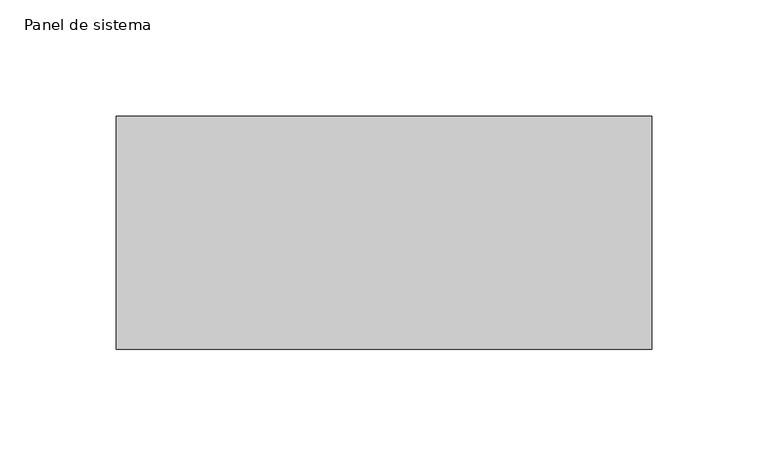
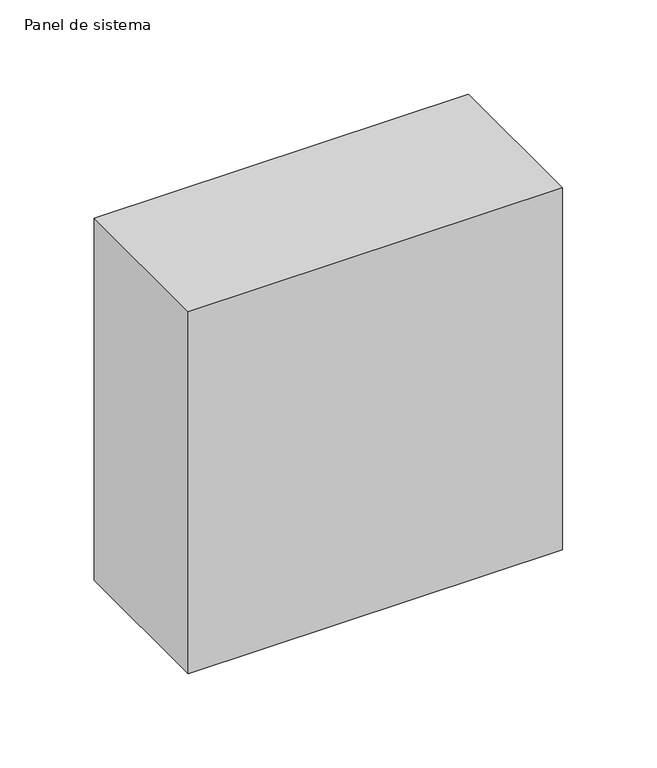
"""IFC4 building model written with IfcOpenShell, lengths in millimetres: plate geometry, Panel de sistema : PAVES."""

from ifc_helpers import new_model, si_unit, origin, origin_with_axes, place, context, project, spatial, polyline, outline, extrude, source, transform, mapped, element, save


def panel_de_sistema_f0514aad(model_context):
    return source(origin(), model_context, "Body", "SweptSolid", [
        extrude(outline(polyline([(115.0, -50.0), (-115.0, -50.0), (-115.0, 50.0), (115.0, 50.0), (115.0, -50.0)])), origin_with_axes(), (0.0, 0.0, 1.0), 235.0),
    ])


if __name__ == "__main__":
    model = new_model("IFC4")
    model_context = context("Model", 3, world=origin())
    ifc_project = project(units=[si_unit("LENGTHUNIT", "METRE", prefix="MILLI")], contexts=[model_context])
    site = spatial("IfcSite", under=ifc_project)
    building = spatial("IfcBuilding", under=site)
    placement = place(None, origin())
    panel_de_sistema_shape = panel_de_sistema_f0514aad(model_context)
    element("IfcPlate", 1, ObjectType="Panel de sistema : PAVES", at=placement, inside=building, context=model_context, shape_type="MappedRepresentation", body=[
        mapped(panel_de_sistema_shape, transform((0.0, 0.0, 0.0), x_axis=(1.0, 0.0, 0.0), y_axis=(0.0, 1.0, 0.0), z_axis=(0.0, 0.0, 1.0))),
    ])
    save(model, "model.ifc")
